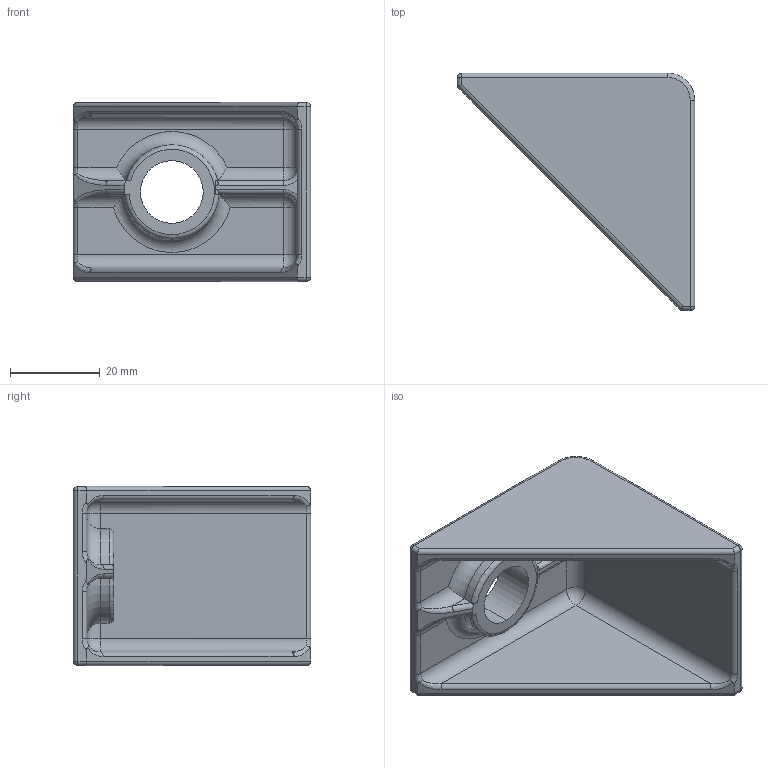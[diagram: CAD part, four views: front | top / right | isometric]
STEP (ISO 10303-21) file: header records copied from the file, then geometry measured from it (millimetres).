
FILE_DESCRIPTION((''),'2;1');
FILE_NAME('SMALLBRACKETINJECTIONMOLLDED','2015-02-24T',('mphilpott'),(''),'CREO PARAMETRIC BY PTC INC, 2014190','CREO PARAMETRIC BY PTC INC, 2014190','');
FILE_SCHEMA(('CONFIG_CONTROL_DESIGN'));
Length unit declared in the file: millimetre
Products named in the file (1): SMALLBRACKETINJECTIONMOLLDED
Bounding box: 53 x 53 x 40 mm (x, y, z)
Volume: 21187.2 mm3; surface area: 13752.2 mm2
Topology: 1 solids, 1 shells, 96 faces, 224 edges, 130 vertices
Faces by surface type: cylinder 42, plane 27, torus 13, sphere 8, bspline 6
Entity records: 3166 total; most frequent: CARTESIAN_POINT 1019, ORIENTED_EDGE 448, DIRECTION 430, EDGE_CURVE 224, AXIS2_PLACEMENT_3D 167, VERTEX_POINT 130, EDGE_LOOP 98, VECTOR 96
